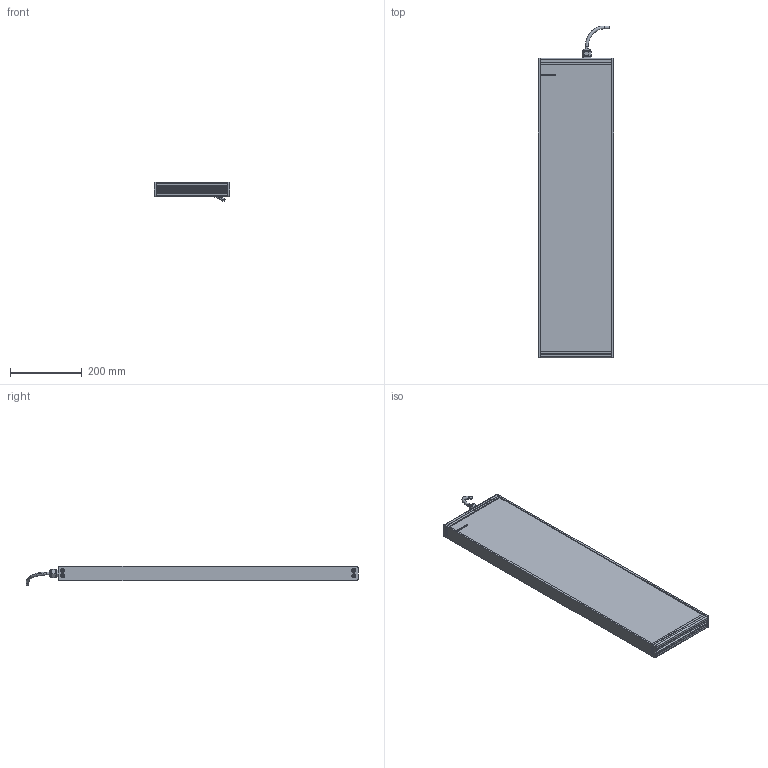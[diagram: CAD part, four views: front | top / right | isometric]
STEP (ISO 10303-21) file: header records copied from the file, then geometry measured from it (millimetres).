
FILE_DESCRIPTION (( 'STEP AP214' ), '1' );
FILE_NAME ('EFFI-BL-200T-800-1M12P.STEP', '2021-06-28T09:07:32', ( '' ), ( '' ), 'SwSTEP 2.0', 'SolidWorks 2021', '' );
FILE_SCHEMA (( 'AUTOMOTIVE_DESIGN' ));
Length unit declared in the file: millimetre
Products named in the file (7): profile modif_lg 99.5 mm; EFFI-BL-200T-800-1M12P; 003776; Pièce2^EFFI-BL-XXXT-YYY + M12P; M12 power; bord fin modif_lg 436.5 mm
Assembly tree (14 placements, depth 2):
  EFFI-BL-200T-800-1M12P
    profile modif_lg 99.5 mm
    bord fin modif_lg 436.5 mm  x2
    Pièce2^EFFI-BL-XXXT-YYY + M12P
    profile modif_lg 99.5 mm
    M12 power
    003776  x8
Bounding box: 210 x 926.45 x 53.92 mm (x, y, z)
Volume: 6096428.1 mm3; surface area: 609220.7 mm2
Topology: 13 solids, 16 shells, 569 faces, 1446 edges, 927 vertices
Faces by surface type: plane 327, bspline 125, cylinder 95, cone 18, torus 4
Entity records: 15286 total; most frequent: CARTESIAN_POINT 5076, ORIENTED_EDGE 2024, DIRECTION 1720, EDGE_CURVE 1014, VECTOR 756, LINE 756, VERTEX_POINT 670, AXIS2_PLACEMENT_3D 482
